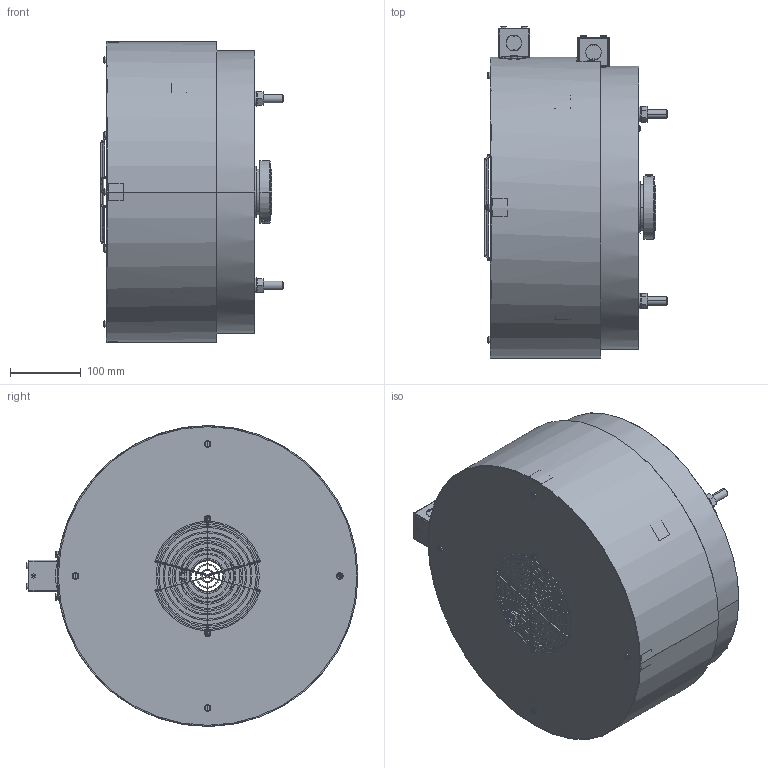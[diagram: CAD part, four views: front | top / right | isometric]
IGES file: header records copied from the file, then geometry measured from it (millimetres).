
Global section: file name: No Iges File Name specified; native system: Autodesk Inventor 2010; preprocessor: AutoDesk Inventor Iges Exporter R2010; author: lzuniga; date: 20101202.132907; units: millimetre
Bounding box: 258.46 x 469.67 x 425.45 mm (x, y, z)
Volume: 15293335.2 mm3; surface area: 1271737.7 mm2
Topology: 57 solids, 58 shells, 1159 faces, 2831 edges, 1800 vertices
Faces by surface type: plane 557, bspline 200, cylinder 176, revolution 87, torus 82, cone 52, sphere 5
